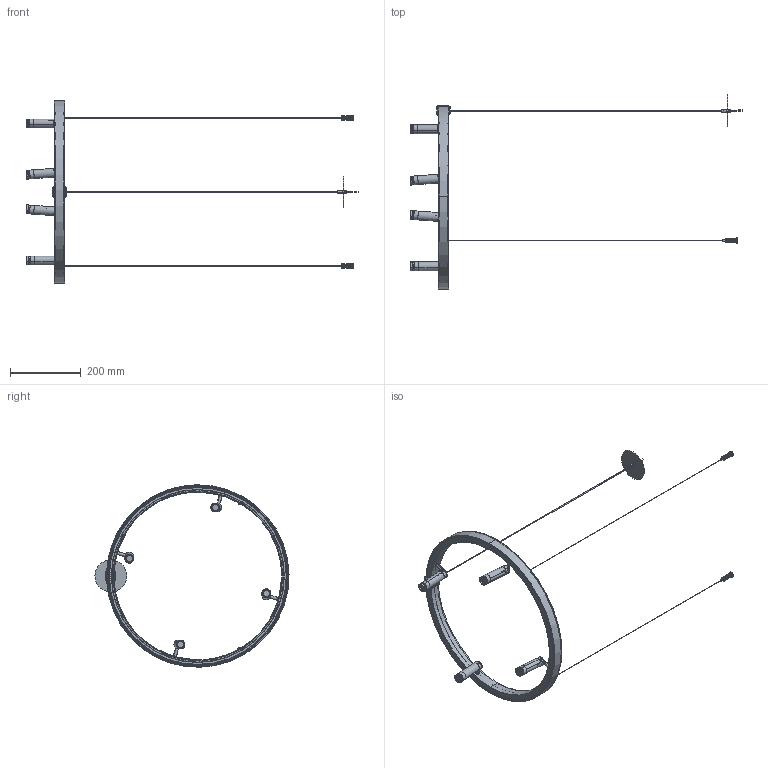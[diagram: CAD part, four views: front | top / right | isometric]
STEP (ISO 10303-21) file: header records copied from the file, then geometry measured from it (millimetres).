
FILE_DESCRIPTION (( 'STEP AP214' ), '1' );
FILE_NAME ('SPACE25_Ø500.STEP', '2024-05-29T15:10:43', ( '' ), ( '' ), 'SwSTEP 2.0', 'SolidWorks 2024', '' );
FILE_SCHEMA (( 'AUTOMOTIVE_DESIGN' ));
Length unit declared in the file: millimetre
Products named in the file (1): SPACE25_Ø500
Bounding box: 937.03 x 547.86 x 515.02 mm (x, y, z)
Volume: 450084.8 mm3; surface area: 461338.9 mm2
Topology: 32 solids, 34 shells, 3009 faces, 7591 edges, 4633 vertices
Faces by surface type: plane 895, cylinder 832, cone 527, bspline 466, torus 257, sphere 32
Entity records: 183603 total; most frequent: CARTESIAN_POINT 116384, ORIENTED_EDGE 14982, DIRECTION 13048, EDGE_CURVE 7491, AXIS2_PLACEMENT_3D 5004, VERTEX_POINT 4629, EDGE_LOOP 3226, LINE 3040
